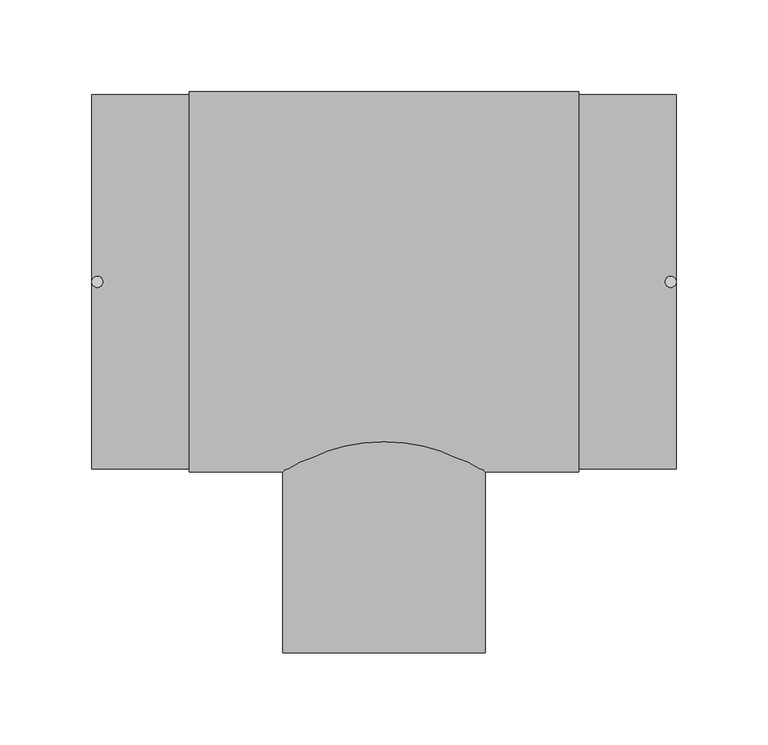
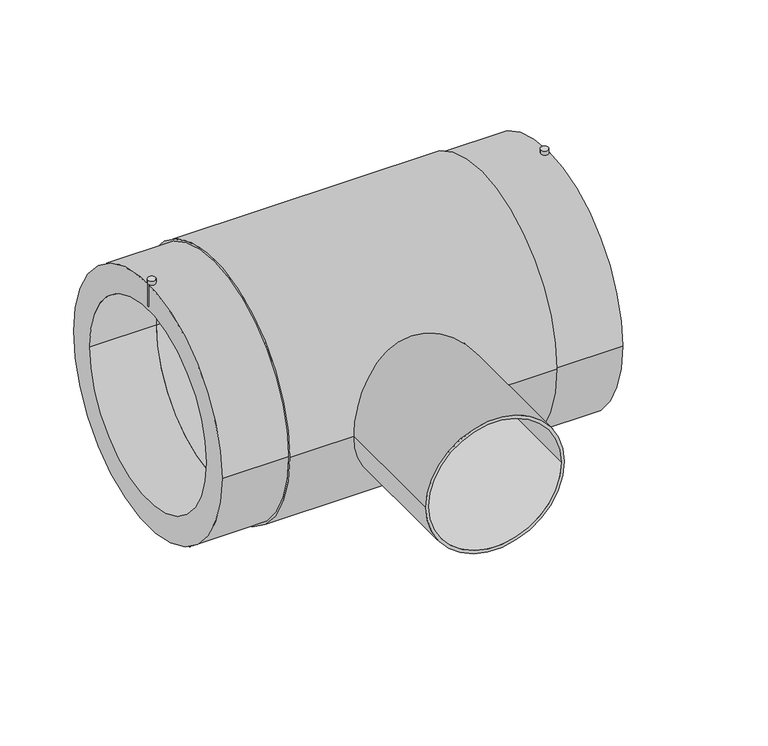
"""IFC4 building model written with IfcOpenShell, lengths in millimetres: pipe fitting geometry, EGB_VASEN_ PPR_Te electrosoldable WXRD300_Te reducida electrosoldable WXRD310 : Te electrosoldable."""

from ifc_helpers import new_model, si_unit, point, frame, frame_2d, origin, origin_2d, place, context, project, spatial, circle_curve, trimmed, segment, composite_curve, outline, extrude, source, transform, mapped, element, save


def pipe_fitting_db7ac3ad(model_context):
    return source(origin(), model_context, "Body", "SweptSolid", [
        extrude(outline(composite_curve([segment(trimmed(circle_curve(frame_2d((-156.0, 0.0)), 3.0), [point((-159.0, 0.0))], [point((-153.0, 0.0))], False, "CARTESIAN"), True, "CONTINUOUS"), segment(trimmed(circle_curve(frame_2d((-156.0, 0.0)), 3.0), [point((-153.0, 0.0))], [point((-159.0, 0.0))], False, "CARTESIAN"), True, "CONTINUOUS")], self_intersect=False)), frame((0.0, 0.0, 83.0), z_axis=(0.0, 0.0, 1.0), x_axis=(1.0, 0.0, 0.0)), (0.0, 0.0, 1.0), 22.0),
        extrude(outline(composite_curve([segment(trimmed(circle_curve(frame_2d((156.0, 0.0)), 3.0), [point((153.0, 0.0))], [point((159.0, 0.0))], False, "CARTESIAN"), True, "CONTINUOUS"), segment(trimmed(circle_curve(frame_2d((156.0, 0.0)), 3.0), [point((159.0, 0.0))], [point((153.0, 0.0))], False, "CARTESIAN"), True, "CONTINUOUS")], self_intersect=False)), frame((0.0, 0.0, 83.0), z_axis=(0.0, 0.0, 1.0), x_axis=(1.0, 0.0, 0.0)), (0.0, 0.0, 1.0), 22.0),
        extrude(outline(composite_curve([segment(trimmed(circle_curve(origin_2d(), 57.5), [point((0.0, 57.5))], [point((0.0, -57.5))], False, "CARTESIAN"), True, "CONTINUOUS"), segment(trimmed(circle_curve(origin_2d(), 57.5), [point((0.0, -57.5))], [point((0.0, 57.5))], False, "CARTESIAN"), True, "CONTINUOUS")], self_intersect=False)), frame((0.0, -80.8, 0.0), z_axis=(0.0, 1.0, 0.0), x_axis=(0.0, 0.0, 1.0)), (0.0, 0.0, 1.0), 80.8),
        extrude(outline(composite_curve([segment(trimmed(circle_curve(origin_2d(), 55.0), [point((0.0, -55.0))], [point((0.0, 55.0))], False, "CARTESIAN"), True, "CONTINUOUS"), segment(trimmed(circle_curve(origin_2d(), 55.0), [point((0.0, 55.0))], [point((0.0, -55.0))], False, "CARTESIAN"), True, "CONTINUOUS")], self_intersect=False), holes=[composite_curve([segment(trimmed(circle_curve(origin_2d(), 52.5), [point((0.0, -52.5))], [point((0.0, 52.5))], True, "CARTESIAN"), True, "CONTINUOUS"), segment(trimmed(circle_curve(origin_2d(), 52.5), [point((0.0, 52.5))], [point((0.0, -52.5))], True, "CARTESIAN"), True, "CONTINUOUS")], self_intersect=False)]), frame((0.0, -202.0, 0.0), z_axis=(0.0, 1.0, 0.0), x_axis=(0.0, 0.0, 1.0)), (0.0, 0.0, 1.0), 121.2),
        extrude(outline(composite_curve([segment(trimmed(circle_curve(origin_2d(), 103.5), [point((-103.5, 0.0))], [point((103.5, 0.0))], False, "CARTESIAN"), True, "CONTINUOUS"), segment(trimmed(circle_curve(origin_2d(), 103.5), [point((103.5, 0.0))], [point((-103.5, 0.0))], False, "CARTESIAN"), True, "CONTINUOUS")], self_intersect=False), holes=[composite_curve([segment(trimmed(circle_curve(origin_2d(), 80.0), [point((-80.0, 0.0))], [point((80.0, 0.0))], True, "CARTESIAN"), True, "CONTINUOUS"), segment(trimmed(circle_curve(origin_2d(), 80.0), [point((80.0, 0.0))], [point((-80.0, 0.0))], True, "CARTESIAN"), True, "CONTINUOUS")], self_intersect=False)]), frame((-106.0, 0.0, 0.0), z_axis=(1.0, 0.0, 0.0), x_axis=(0.0, 1.0, 0.0)), (0.0, 0.0, 1.0), 212.0),
        extrude(outline(composite_curve([segment(trimmed(circle_curve(origin_2d(), 102.0), [point((-102.0, 0.0))], [point((102.0, 0.0))], False, "CARTESIAN"), True, "CONTINUOUS"), segment(trimmed(circle_curve(origin_2d(), 102.0), [point((102.0, 0.0))], [point((-102.0, 0.0))], False, "CARTESIAN"), True, "CONTINUOUS")], self_intersect=False), holes=[composite_curve([segment(trimmed(circle_curve(origin_2d(), 80.0), [point((-80.0, 0.0))], [point((80.0, 0.0))], True, "CARTESIAN"), True, "CONTINUOUS"), segment(trimmed(circle_curve(origin_2d(), 80.0), [point((80.0, 0.0))], [point((-80.0, 0.0))], True, "CARTESIAN"), True, "CONTINUOUS")], self_intersect=False)]), frame((-159.0, 0.0, 0.0), z_axis=(1.0, 0.0, 0.0), x_axis=(0.0, 1.0, 0.0)), (0.0, 0.0, 1.0), 318.0),
    ])


if __name__ == "__main__":
    model = new_model("IFC4")
    model_context = context("Model", 3, world=origin())
    ifc_project = project(units=[si_unit("LENGTHUNIT", "METRE", prefix="MILLI")], contexts=[model_context])
    site = spatial("IfcSite", under=ifc_project)
    building = spatial("IfcBuilding", under=site)
    placement = place(None, origin())
    pipe_fitting_shape = pipe_fitting_db7ac3ad(model_context)
    element("IfcPipeFitting", 1, ObjectType="EGB_VASEN_ PPR_Te electrosoldable WXRD300_Te reducida electrosoldable WXRD310 : Te electrosoldable", at=placement, inside=building, context=model_context, shape_type="MappedRepresentation", body=[
        mapped(pipe_fitting_shape, transform((0.0, 0.0, 0.0), x_axis=(1.0, 0.0, 0.0), y_axis=(0.0, 1.0, 0.0), z_axis=(0.0, 0.0, 1.0))),
    ])
    save(model, "model.ifc")
